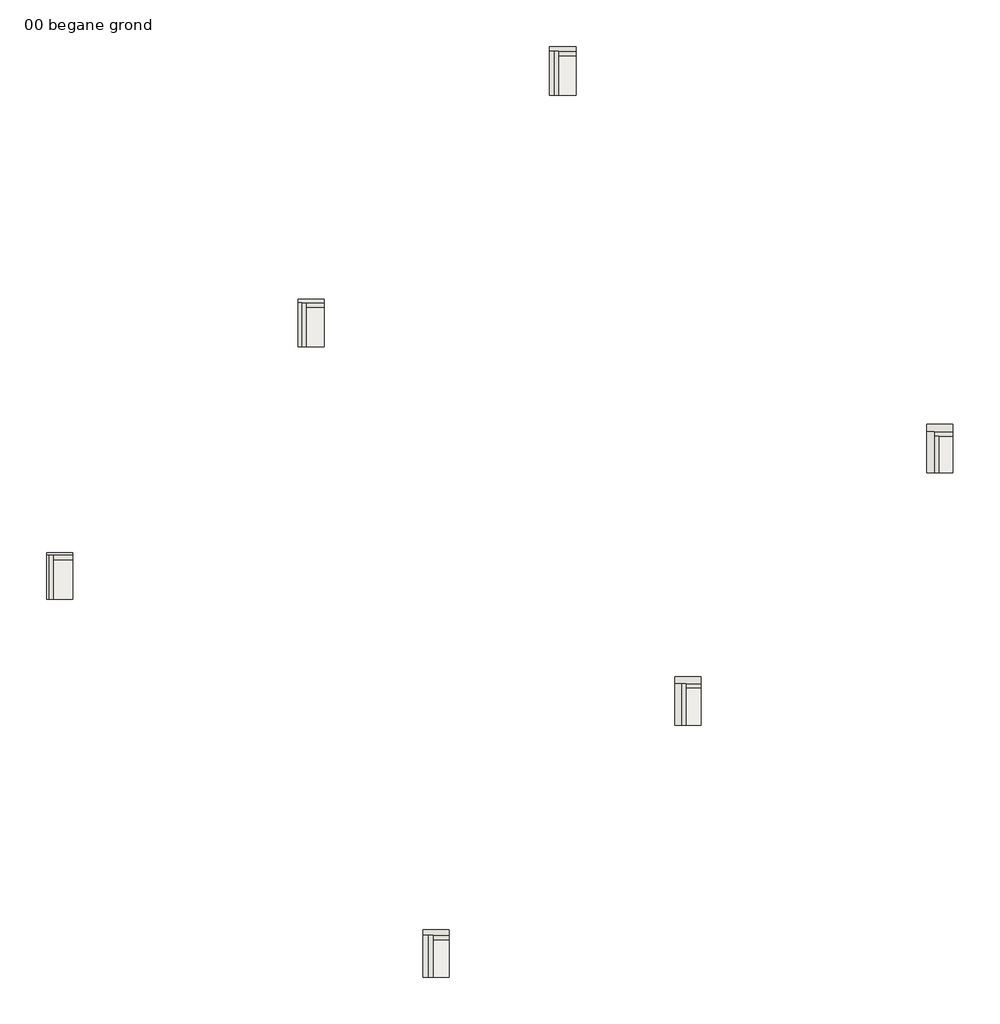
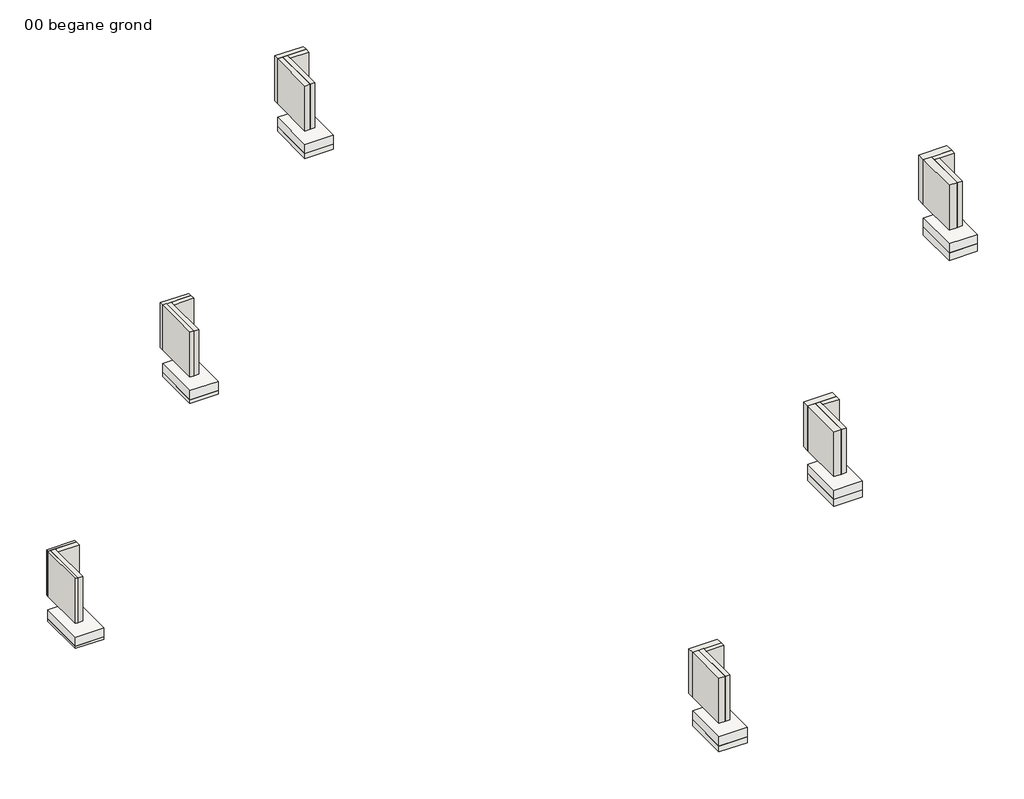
# One storey: 24 walls, 12 slabs.
"""IFC4 building model written with IfcOpenShell, lengths in millimetres."""

from ifc_helpers import new_model, si_unit, frame, origin, origin_with_axes, place, context, project, spatial, polyline, outline, extrude, faceted_brep, element, save

model = new_model("IFC4")

# Units and contexts
model_context = context("Model", 3, world=origin())
ifc_project = project(units=[si_unit("LENGTHUNIT", "METRE", prefix="MILLI")], contexts=[model_context])

# Site, building, storey
site = spatial("IfcSite", under=ifc_project)
building = spatial("IfcBuilding", under=site)
storey = spatial("IfcBuildingStorey", under=building, Name="00 begane grond", Elevation=0.0)

# Slabs
placement = place(None, origin())
element("IfcSlab", 1, ObjectType="NLRS_23_FL_Heraklith Herafoam 50x985x590mm", at=placement, inside=storey, context=model_context, shape_type="SweptSolid", body=[
    extrude(outline(polyline([(590.0, 0.0), (0.0, 0.0), (0.0, 985.0), (590.0, 985.0), (590.0, 0.0)])), frame((0.0, 0.0, -550.0), z_axis=(0.0, 0.0, 1.0), x_axis=(1.0, 0.0, 0.0)), (0.0, 0.0, 1.0), 50.0),
])
element("IfcSlab", 2, ObjectType="NLRS_23_FL_Heraklith Herafoam 80x985x590mm", at=placement, inside=storey, context=model_context, shape_type="SweptSolid", body=[
    extrude(outline(polyline([(6231.8542495, 5656.8542495), (5641.8542495, 5656.8542495), (5641.8542495, 6641.8542495), (6231.8542495, 6641.8542495), (6231.8542495, 5656.8542495)])), frame((0.0, 0.0, -580.0), z_axis=(0.0, 0.0, 1.0), x_axis=(1.0, 0.0, 0.0)), (0.0, 0.0, 1.0), 80.0),
])
element("IfcSlab", 3, ObjectType="NLRS_23_FL_Heraklith Herafoam 105x985x590mm", at=placement, inside=storey, context=model_context, shape_type="SweptSolid", body=[
    extrude(outline(polyline([(11876.208499, 11301.208499), (11286.208499, 11301.208499), (11286.208499, 12286.208499), (11876.208499, 12286.208499), (11876.208499, 11301.208499)])), frame((0.0, 0.0, -605.0), z_axis=(0.0, 0.0, 1.0), x_axis=(1.0, 0.0, 0.0)), (0.0, 0.0, 1.0), 105.0),
])
element("IfcSlab", 4, ObjectType="NLRS_23_FL_Heraklith Herafoam 130x985x590mm", at=placement, inside=storey, context=model_context, shape_type="SweptSolid", body=[
    extrude(outline(polyline([(9035.2813742, -8485.2813742), (8445.2813742, -8485.2813742), (8445.2813742, -7540.2813742), (9035.2813742, -7540.2813742), (9035.2813742, -8485.2813742)])), frame((0.0, 0.0, -630.0), z_axis=(0.0, 0.0, 1.0), x_axis=(1.0, 0.0, 0.0)), (0.0, 0.0, 1.0), 130.0),
])
element("IfcSlab", 5, ObjectType="NLRS_23_FL_Heraklith Herafoam 150x985x590mm", at=placement, inside=storey, context=model_context, shape_type="SweptSolid", body=[
    extrude(outline(polyline([(14687.1356237, -2828.4271247), (14097.1356237, -2828.4271247), (14097.1356237, -1893.4271247), (14687.1356237, -1893.4271247), (14687.1356237, -2828.4271247)])), frame((0.0, 0.0, -650.0), z_axis=(0.0, 0.0, 1.0), x_axis=(1.0, 0.0, 0.0)), (0.0, 0.0, 1.0), 150.0),
])
element("IfcSlab", 6, ObjectType="NLRS_23_FL_Heraklith Herafoam 170x985x590mm", at=placement, inside=storey, context=model_context, shape_type="SweptSolid", body=[
    extrude(outline(polyline([(20338.9898732, 2828.4271247), (19748.9898732, 2828.4271247), (19748.9898732, 3753.4271247), (20338.9898732, 3753.4271247), (20338.9898732, 2828.4271247)])), frame((0.0, 0.0, -670.0), z_axis=(0.0, 0.0, 1.0), x_axis=(1.0, 0.0, 0.0)), (0.0, 0.0, 1.0), 170.0),
])
element("IfcSlab", 7, ObjectType="Generic 200mm", at=placement, inside=storey, context=model_context, shape_type="SweptSolid", body=[
    extrude(outline(polyline([(590.0, 985.0), (590.0, 0.0), (0.0, 0.0), (0.0, 985.0), (590.0, 985.0)])), frame((0.0, 0.0, -500.0), z_axis=(0.0, 0.0, 1.0), x_axis=(1.0, 0.0, 0.0)), (0.0, 0.0, 1.0), 200.0),
])
element("IfcSlab", 8, ObjectType="Generic 200mm", at=placement, inside=storey, context=model_context, shape_type="SweptSolid", body=[
    extrude(outline(polyline([(6231.8542495, 6641.8542495), (6231.8542495, 5656.8542495), (5641.8542495, 5656.8542495), (5641.8542495, 6641.8542495), (6231.8542495, 6641.8542495)])), frame((0.0, 0.0, -500.0), z_axis=(0.0, 0.0, 1.0), x_axis=(1.0, 0.0, 0.0)), (0.0, 0.0, 1.0), 200.0),
])
element("IfcSlab", 9, ObjectType="Generic 200mm", at=placement, inside=storey, context=model_context, shape_type="SweptSolid", body=[
    extrude(outline(polyline([(11876.208499, 12286.208499), (11876.208499, 11301.208499), (11286.208499, 11301.208499), (11286.208499, 12286.208499), (11876.208499, 12286.208499)])), frame((0.0, 0.0, -500.0), z_axis=(0.0, 0.0, 1.0), x_axis=(1.0, 0.0, 0.0)), (0.0, 0.0, 1.0), 200.0),
])
element("IfcSlab", 10, ObjectType="Generic 200mm", at=placement, inside=storey, context=model_context, shape_type="SweptSolid", body=[
    extrude(outline(polyline([(20338.9898732, 3753.4271247), (20338.9898732, 2828.4271247), (19748.9898732, 2828.4271247), (19748.9898732, 3753.4271247), (20338.9898732, 3753.4271247)])), frame((0.0, 0.0, -500.0), z_axis=(0.0, 0.0, 1.0), x_axis=(1.0, 0.0, 0.0)), (0.0, 0.0, 1.0), 200.0),
])
element("IfcSlab", 11, ObjectType="Generic 200mm", at=placement, inside=storey, context=model_context, shape_type="SweptSolid", body=[
    extrude(outline(polyline([(14687.1356237, -1893.4271247), (14687.1356237, -2828.4271247), (14097.1356237, -2828.4271247), (14097.1356237, -1893.4271247), (14687.1356237, -1893.4271247)])), frame((0.0, 0.0, -500.0), z_axis=(0.0, 0.0, 1.0), x_axis=(1.0, 0.0, 0.0)), (0.0, 0.0, 1.0), 200.0),
])
element("IfcSlab", 12, ObjectType="Generic 200mm", at=placement, inside=storey, context=model_context, shape_type="SweptSolid", body=[
    extrude(outline(polyline([(9035.2813742, -7540.2813742), (9035.2813742, -8485.2813742), (8445.2813742, -8485.2813742), (8445.2813742, -7540.2813742), (9035.2813742, -7540.2813742)])), frame((0.0, 0.0, -500.0), z_axis=(0.0, 0.0, 1.0), x_axis=(1.0, 0.0, 0.0)), (0.0, 0.0, 1.0), 200.0),
])

# Walls
element("IfcWall", 13, ObjectType="NLRS_42_WA_Heraklith Herafoam 50x985x590mm", at=placement, inside=storey, context=model_context, shape_type="SweptSolid", body=[
    extrude(outline(polyline([(0.0, 0.0), (0.0, 985.0), (50.0, 985.0), (50.0, 0.0), (0.0, 0.0)])), origin_with_axes(), (0.0, 0.0, 1.0), 985.0),
])
element("IfcWall", 14, ObjectType="NLRS_41_WA_Heraklith Herafoam 50x985x590mm", at=placement, inside=storey, context=model_context, shape_type="Brep", body=[
    faceted_brep([(0.0, 985.0, 0.0), (50.0, 985.0, 0.0), (590.0, 985.0, 0.0), (590.0, 985.0, 985.0), (50.0, 985.0, 985.0), (0.0, 985.0, 985.0), (0.0, 1035.0, 0.0), (0.0, 1035.0, 985.0), (590.0, 1035.0, 985.0), (590.0, 1035.0, 0.0)], [[[0, 1, 2, 3, 4, 5]], [[6, 7, 8, 9]], [[2, 1, 0, 6, 9]], [[3, 2, 9, 8]], [[5, 4, 3, 8, 7]], [[0, 5, 7, 6]]]),
])
element("IfcWall", 15, ObjectType="NLRS_42_WA_Heraklith Herafoam 80x985x590mm", at=placement, inside=storey, context=model_context, shape_type="SweptSolid", body=[
    extrude(outline(polyline([(5641.8542495, 5656.8542495), (5641.8542495, 6641.8542495), (5721.8542495, 6641.8542495), (5721.8542495, 5656.8542495), (5641.8542495, 5656.8542495)])), origin_with_axes(), (0.0, 0.0, 1.0), 985.0),
])
element("IfcWall", 16, ObjectType="NLRS_41_WA_Heraklith Herafoam 80x985x590mm", at=placement, inside=storey, context=model_context, shape_type="SweptSolid", body=[
    extrude(outline(polyline([(6231.8542495, 6641.8542495), (5641.8542495, 6641.8542495), (5641.8542495, 6721.8542495), (6231.8542495, 6721.8542495), (6231.8542495, 6641.8542495)])), origin_with_axes(), (0.0, 0.0, 1.0), 985.0),
])
element("IfcWall", 17, ObjectType="NLRS_42_WA_Heraklith Herafoam 105x985x590mm", at=placement, inside=storey, context=model_context, shape_type="SweptSolid", body=[
    extrude(outline(polyline([(11286.208499, 11301.208499), (11286.208499, 12286.208499), (11391.208499, 12286.208499), (11391.208499, 11301.208499), (11286.208499, 11301.208499)])), origin_with_axes(), (0.0, 0.0, 1.0), 985.0),
])
element("IfcWall", 18, ObjectType="NLRS_41_WA_Heraklith Herafoam 105x985x590mm", at=placement, inside=storey, context=model_context, shape_type="SweptSolid", body=[
    extrude(outline(polyline([(11876.208499, 12286.208499), (11286.208499, 12286.208499), (11286.208499, 12391.208499), (11876.208499, 12391.208499), (11876.208499, 12286.208499)])), origin_with_axes(), (0.0, 0.0, 1.0), 985.0),
])
element("IfcWall", 19, ObjectType="NLRS_42_WA_Heraklith Herafoam 130x985x590mm", at=placement, inside=storey, context=model_context, shape_type="SweptSolid", body=[
    extrude(outline(polyline([(8445.2813742, -8485.2813742), (8445.2813742, -7540.2813742), (8575.2813742, -7540.2813742), (8575.2813742, -8485.2813742), (8445.2813742, -8485.2813742)])), origin_with_axes(), (0.0, 0.0, 1.0), 985.0),
])
element("IfcWall", 20, ObjectType="NLRS_41_WA_Heraklith Herafoam 130x985x590mm", at=placement, inside=storey, context=model_context, shape_type="Brep", body=[
    faceted_brep([(8445.2813742, -7540.2813742, 0.0), (8575.2813742, -7540.2813742, 0.0), (9035.2813742, -7540.2813742, 0.0), (9035.2813742, -7540.2813742, 985.0), (8575.2813742, -7540.2813742, 985.0), (8445.2813742, -7540.2813742, 985.0), (8445.2813742, -7410.2813742, 0.0), (8445.2813742, -7410.2813742, 985.0), (9035.2813742, -7410.2813742, 985.0), (9035.2813742, -7410.2813742, 0.0)], [[[0, 1, 2, 3, 4, 5]], [[6, 7, 8, 9]], [[2, 1, 0, 6, 9]], [[3, 2, 9, 8]], [[5, 4, 3, 8, 7]], [[0, 5, 7, 6]]]),
])
element("IfcWall", 21, ObjectType="NLRS_41_WA_Heraklith Herafoam 150x985x590mm", at=placement, inside=storey, context=model_context, shape_type="Brep", body=[
    faceted_brep([(14097.1356237, -1893.4271247, 0.0), (14247.1356237, -1893.4271247, 0.0), (14687.1356237, -1893.4271247, 0.0), (14687.1356237, -1893.4271247, 985.0), (14247.1356237, -1893.4271247, 985.0), (14097.1356237, -1893.4271247, 985.0), (14097.1356237, -1743.4271247, 0.0), (14097.1356237, -1743.4271247, 985.0), (14687.1356237, -1743.4271247, 985.0), (14687.1356237, -1743.4271247, 0.0)], [[[0, 1, 2, 3, 4, 5]], [[6, 7, 8, 9]], [[2, 1, 0, 6, 9]], [[3, 2, 9, 8]], [[5, 4, 3, 8, 7]], [[0, 5, 7, 6]]]),
])
element("IfcWall", 22, ObjectType="NLRS_42_WA_Heraklith Herafoam 150x985x590mm", at=placement, inside=storey, context=model_context, shape_type="SweptSolid", body=[
    extrude(outline(polyline([(14097.1356237, -2828.4271247), (14097.1356237, -1893.4271247), (14247.1356237, -1893.4271247), (14247.1356237, -2828.4271247), (14097.1356237, -2828.4271247)])), origin_with_axes(), (0.0, 0.0, 1.0), 985.0),
])
element("IfcWall", 23, ObjectType="NLRS_41_WA_Heraklith Herafoam 170x985x590mm", at=placement, inside=storey, context=model_context, shape_type="Brep", body=[
    faceted_brep([(19748.9898732, 3753.4271247, 0.0), (19918.9898732, 3753.4271247, 0.0), (20338.9898732, 3753.4271247, 0.0), (20338.9898732, 3753.4271247, 985.0), (19918.9898732, 3753.4271247, 985.0), (19748.9898732, 3753.4271247, 985.0), (19748.9898732, 3923.4271247, 0.0), (19748.9898732, 3923.4271247, 985.0), (20338.9898732, 3923.4271247, 985.0), (20338.9898732, 3923.4271247, 0.0)], [[[0, 1, 2, 3, 4, 5]], [[6, 7, 8, 9]], [[2, 1, 0, 6, 9]], [[3, 2, 9, 8]], [[5, 4, 3, 8, 7]], [[0, 5, 7, 6]]]),
])
element("IfcWall", 24, ObjectType="NLRS_42_WA_Heraklith Herafoam 170x985x590mm", at=placement, inside=storey, context=model_context, shape_type="SweptSolid", body=[
    extrude(outline(polyline([(19748.9898732, 2828.4271247), (19748.9898732, 3753.4271247), (19918.9898732, 3753.4271247), (19918.9898732, 2828.4271247), (19748.9898732, 2828.4271247)])), origin_with_axes(), (0.0, 0.0, 1.0), 985.0),
])
element("IfcWall", 25, ObjectType="Generic_100mm", at=placement, inside=storey, context=model_context, shape_type="Brep", body=[
    faceted_brep([(150.0, 0.0, 0.0), (150.0, 885.0, 0.0), (150.0, 985.0, 0.0), (150.0, 985.0, 985.0), (150.0, 885.0, 985.0), (150.0, 0.0, 985.0), (50.0, 0.0, 0.0), (50.0, 0.0, 985.0), (50.0, 985.0, 985.0), (50.0, 985.0, 0.0)], [[[0, 1, 2, 3, 4, 5]], [[6, 7, 8, 9]], [[2, 1, 0, 6, 9]], [[5, 4, 3, 8, 7]], [[0, 5, 7, 6]], [[3, 2, 9, 8]]]),
])
element("IfcWall", 26, ObjectType="Generic_100mm", at=placement, inside=storey, context=model_context, shape_type="SweptSolid", body=[
    extrude(outline(polyline([(150.0, 985.0), (590.0, 985.0), (590.0, 885.0), (150.0, 885.0), (150.0, 985.0)])), origin_with_axes(), (0.0, 0.0, 1.0), 985.0),
])
element("IfcWall", 27, ObjectType="Generic_100mm", at=placement, inside=storey, context=model_context, shape_type="Brep", body=[
    faceted_brep([(5821.8542495, 5656.8542495, 0.0), (5821.8542495, 6541.8542495, 0.0), (5821.8542495, 6641.8542495, 0.0), (5821.8542495, 6641.8542495, 985.0), (5821.8542495, 6541.8542495, 985.0), (5821.8542495, 5656.8542495, 985.0), (5721.8542495, 5656.8542495, 0.0), (5721.8542495, 5656.8542495, 985.0), (5721.8542495, 6641.8542495, 985.0), (5721.8542495, 6641.8542495, 0.0)], [[[0, 1, 2, 3, 4, 5]], [[6, 7, 8, 9]], [[2, 1, 0, 6, 9]], [[5, 4, 3, 8, 7]], [[0, 5, 7, 6]], [[3, 2, 9, 8]]]),
])
element("IfcWall", 28, ObjectType="Generic_100mm", at=placement, inside=storey, context=model_context, shape_type="SweptSolid", body=[
    extrude(outline(polyline([(5821.8542495, 6641.8542495), (6231.8542495, 6641.8542495), (6231.8542495, 6541.8542495), (5821.8542495, 6541.8542495), (5821.8542495, 6641.8542495)])), origin_with_axes(), (0.0, 0.0, 1.0), 985.0),
])
element("IfcWall", 29, ObjectType="Generic_100mm", at=placement, inside=storey, context=model_context, shape_type="Brep", body=[
    faceted_brep([(11491.208499, 11301.208499, 0.0), (11491.208499, 12186.208499, 0.0), (11491.208499, 12286.208499, 0.0), (11491.208499, 12286.208499, 985.0), (11491.208499, 12186.208499, 985.0), (11491.208499, 11301.208499, 985.0), (11391.208499, 11301.208499, 0.0), (11391.208499, 11301.208499, 985.0), (11391.208499, 12286.208499, 985.0), (11391.208499, 12286.208499, 0.0)], [[[0, 1, 2, 3, 4, 5]], [[6, 7, 8, 9]], [[2, 1, 0, 6, 9]], [[5, 4, 3, 8, 7]], [[0, 5, 7, 6]], [[3, 2, 9, 8]]]),
])
element("IfcWall", 30, ObjectType="Generic_100mm", at=placement, inside=storey, context=model_context, shape_type="SweptSolid", body=[
    extrude(outline(polyline([(11491.208499, 12286.208499), (11876.208499, 12286.208499), (11876.208499, 12186.208499), (11491.208499, 12186.208499), (11491.208499, 12286.208499)])), origin_with_axes(), (0.0, 0.0, 1.0), 985.0),
])
element("IfcWall", 31, ObjectType="Generic_100mm", at=placement, inside=storey, context=model_context, shape_type="SweptSolid", body=[
    extrude(outline(polyline([(20018.9898732, 3653.4271247), (20018.9898732, 2828.4271247), (19918.9898732, 2828.4271247), (19918.9898732, 3653.4271247), (20018.9898732, 3653.4271247)])), origin_with_axes(), (0.0, 0.0, 1.0), 985.0),
])
element("IfcWall", 32, ObjectType="Generic_100mm", at=placement, inside=storey, context=model_context, shape_type="Brep", body=[
    faceted_brep([(20338.9898732, 3753.4271247, 0.0), (19918.9898732, 3753.4271247, 0.0), (19918.9898732, 3753.4271247, 985.0), (20338.9898732, 3753.4271247, 985.0), (20338.9898732, 3653.4271247, 0.0), (20338.9898732, 3653.4271247, 985.0), (20018.9898732, 3653.4271247, 985.0), (19918.9898732, 3653.4271247, 985.0), (19918.9898732, 3653.4271247, 0.0), (20018.9898732, 3653.4271247, 0.0)], [[[0, 1, 2, 3]], [[4, 5, 6, 7, 8, 9]], [[1, 0, 4, 9, 8]], [[3, 2, 7, 6, 5]], [[0, 3, 5, 4]], [[2, 1, 8, 7]]]),
])
element("IfcWall", 33, ObjectType="Generic_100mm", at=placement, inside=storey, context=model_context, shape_type="Brep", body=[
    faceted_brep([(14347.1356237, -2828.4271247, 0.0), (14347.1356237, -1993.4271247, 0.0), (14347.1356237, -1893.4271247, 0.0), (14347.1356237, -1893.4271247, 985.0), (14347.1356237, -1993.4271247, 985.0), (14347.1356237, -2828.4271247, 985.0), (14247.1356237, -2828.4271247, 0.0), (14247.1356237, -2828.4271247, 985.0), (14247.1356237, -1893.4271247, 985.0), (14247.1356237, -1893.4271247, 0.0)], [[[0, 1, 2, 3, 4, 5]], [[6, 7, 8, 9]], [[2, 1, 0, 6, 9]], [[5, 4, 3, 8, 7]], [[0, 5, 7, 6]], [[3, 2, 9, 8]]]),
])
element("IfcWall", 34, ObjectType="Generic_100mm", at=placement, inside=storey, context=model_context, shape_type="SweptSolid", body=[
    extrude(outline(polyline([(14347.1356237, -1893.4271247), (14687.1356237, -1893.4271247), (14687.1356237, -1993.4271247), (14347.1356237, -1993.4271247), (14347.1356237, -1893.4271247)])), origin_with_axes(), (0.0, 0.0, 1.0), 985.0),
])
element("IfcWall", 35, ObjectType="Generic_100mm", at=placement, inside=storey, context=model_context, shape_type="Brep", body=[
    faceted_brep([(8675.2813742, -8485.2813742, 0.0), (8675.2813742, -7640.2813742, 0.0), (8675.2813742, -7540.2813742, 0.0), (8675.2813742, -7540.2813742, 985.0), (8675.2813742, -7640.2813742, 985.0), (8675.2813742, -8485.2813742, 985.0), (8575.2813742, -8485.2813742, 0.0), (8575.2813742, -8485.2813742, 985.0), (8575.2813742, -7540.2813742, 985.0), (8575.2813742, -7540.2813742, 0.0)], [[[0, 1, 2, 3, 4, 5]], [[6, 7, 8, 9]], [[2, 1, 0, 6, 9]], [[5, 4, 3, 8, 7]], [[0, 5, 7, 6]], [[3, 2, 9, 8]]]),
])
element("IfcWall", 36, ObjectType="Generic_100mm", at=placement, inside=storey, context=model_context, shape_type="SweptSolid", body=[
    extrude(outline(polyline([(8675.2813742, -7540.2813742), (9035.2813742, -7540.2813742), (9035.2813742, -7640.2813742), (8675.2813742, -7640.2813742), (8675.2813742, -7540.2813742)])), origin_with_axes(), (0.0, 0.0, 1.0), 985.0),
])

save(model, "model.ifc")
